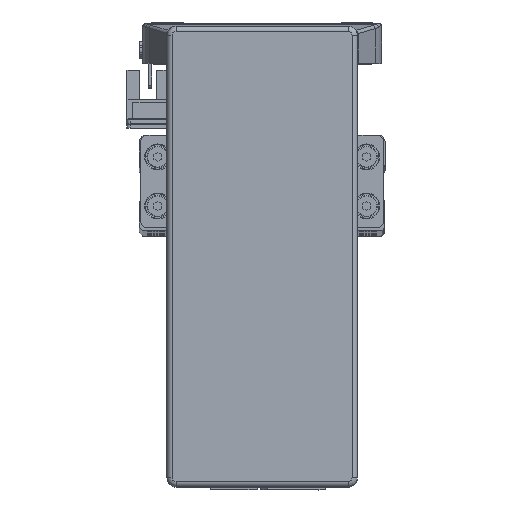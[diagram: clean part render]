
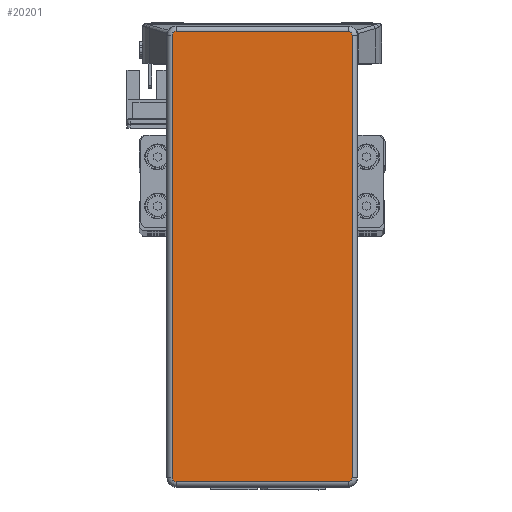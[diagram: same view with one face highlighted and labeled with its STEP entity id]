
A CAD part, top view. The second image highlights one B-rep face of the part: STEP entity #20201.
In plain terms, the highlighted planar face has unit normal (0, 0, 1) as drawn and (0, 0, -1) by its records, which use the part's own axes.
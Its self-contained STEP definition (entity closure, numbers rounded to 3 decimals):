
#2538 = AXIS2_PLACEMENT_3D ( 'NONE', #10122, #10105, #10145 ) ;
#2546 = AXIS2_PLACEMENT_3D ( 'NONE', #10215, #10211, #10216 ) ;
#2555 = AXIS2_PLACEMENT_3D ( 'NONE', #10296, #10320, #10326 ) ;
#2556 = AXIS2_PLACEMENT_3D ( 'NONE', #10344, #10372, #10377 ) ;
#7325 = EDGE_LOOP ( 'NONE', ( #41705, #41638, #41641, #41681, #41672, #41648, #41749, #41722 ) ) ;
#10105 = DIRECTION ( 'NONE',  ( 0., 0., -1. ) ) ;
#10122 = CARTESIAN_POINT ( 'NONE',  ( -71.995, 27.995, -32.2 ) ) ;
#10128 = DIRECTION ( 'NONE',  ( -1., 0., 0. ) ) ;
#10132 = CARTESIAN_POINT ( 'NONE',  ( 71.995, -29.295, -32.2 ) ) ;
#10145 = DIRECTION ( 'NONE',  ( 1., 0., 0. ) ) ;
#10211 = DIRECTION ( 'NONE',  ( 0., 0., -1. ) ) ;
#10215 = CARTESIAN_POINT ( 'NONE',  ( -71.995, -27.995, -32.2 ) ) ;
#10216 = DIRECTION ( 'NONE',  ( 1., 0., 0. ) ) ;
#10264 = DIRECTION ( 'NONE',  ( 0., -1., 0. ) ) ;
#10284 = CARTESIAN_POINT ( 'NONE',  ( 73.295, -27.995, -32.2 ) ) ;
#10296 = CARTESIAN_POINT ( 'NONE',  ( 71.995, 27.995, -32.2 ) ) ;
#10304 = CARTESIAN_POINT ( 'NONE',  ( -73.295, -27.995, -32.2 ) ) ;
#10314 = DIRECTION ( 'NONE',  ( 0., 1., 0. ) ) ;
#10320 = DIRECTION ( 'NONE',  ( 0., 0., -1. ) ) ;
#10326 = DIRECTION ( 'NONE',  ( 1., 0., 0. ) ) ;
#10344 = CARTESIAN_POINT ( 'NONE',  ( 71.995, -27.995, -32.2 ) ) ;
#10372 = DIRECTION ( 'NONE',  ( 0., 0., -1. ) ) ;
#10377 = DIRECTION ( 'NONE',  ( 1., 0., 0. ) ) ;
#10430 = CARTESIAN_POINT ( 'NONE',  ( 73.295, 27.995, -32.2 ) ) ;
#10502 = CARTESIAN_POINT ( 'NONE',  ( 71.995, 29.295, -32.2 ) ) ;
#10507 = DIRECTION ( 'NONE',  ( 1., 0., 0. ) ) ;
#10574 = CARTESIAN_POINT ( 'NONE',  ( -73.295, -27.995, -32.2 ) ) ;
#10587 = CARTESIAN_POINT ( 'NONE',  ( 73.295, -27.995, -32.2 ) ) ;
#10651 = CARTESIAN_POINT ( 'NONE',  ( -71.995, -29.295, -32.2 ) ) ;
#10659 = CARTESIAN_POINT ( 'NONE',  ( 71.995, -29.295, -32.2 ) ) ;
#10710 = CARTESIAN_POINT ( 'NONE',  ( 71.995, 29.295, -32.2 ) ) ;
#10848 = CARTESIAN_POINT ( 'NONE',  ( -73.295, 27.995, -32.2 ) ) ;
#10958 = CARTESIAN_POINT ( 'NONE',  ( -71.995, 29.295, -32.2 ) ) ;
#11018 = VECTOR ( 'NONE', #10128, 1000. ) ;
#11032 = LINE ( 'NONE', #10284, #11062 ) ;
#11051 = LINE ( 'NONE', #10132, #11018 ) ;
#11062 = VECTOR ( 'NONE', #10264, 1000. ) ;
#11068 = CIRCLE ( 'NONE', #2538, 1.3 ) ;
#11071 = CIRCLE ( 'NONE', #2555, 1.3 ) ;
#11076 = CIRCLE ( 'NONE', #2546, 1.3 ) ;
#11084 = LINE ( 'NONE', #10304, #11085 ) ;
#11085 = VECTOR ( 'NONE', #10314, 1000. ) ;
#11092 = CIRCLE ( 'NONE', #2556, 1.3 ) ;
#11150 = VECTOR ( 'NONE', #10507, 1000. ) ;
#11155 = LINE ( 'NONE', #10502, #11150 ) ;
#18595 = PLANE ( 'NONE',  #27791 ) ;
#18602 = DIRECTION ( 'NONE',  ( 1., 0., 0. ) ) ;
#18619 = CARTESIAN_POINT ( 'NONE',  ( 71.995, -27.995, -32.2 ) ) ;
#18629 = DIRECTION ( 'NONE',  ( 0., 0., 1. ) ) ;
#20201 = ADVANCED_FACE ( 'NONE', ( #40081 ), #18595, .F. ) ;
#27791 = AXIS2_PLACEMENT_3D ( 'NONE', #18619, #18629, #18602 ) ;
#38788 = EDGE_CURVE ( 'NONE', #39217, #39273, #11068, .T. ) ;
#38790 = EDGE_CURVE ( 'NONE', #39106, #39117, #11051, .T. ) ;
#38845 = EDGE_CURVE ( 'NONE', #39117, #39057, #11076, .T. ) ;
#38865 = EDGE_CURVE ( 'NONE', #38962, #39061, #11032, .T. ) ;
#38880 = EDGE_CURVE ( 'NONE', #39146, #38962, #11071, .T. ) ;
#38895 = EDGE_CURVE ( 'NONE', #39057, #39217, #11084, .T. ) ;
#38916 = EDGE_CURVE ( 'NONE', #39061, #39106, #11092, .T. ) ;
#38962 = VERTEX_POINT ( 'NONE', #10430 ) ;
#38991 = EDGE_CURVE ( 'NONE', #39273, #39146, #11155, .T. ) ;
#39057 = VERTEX_POINT ( 'NONE', #10574 ) ;
#39061 = VERTEX_POINT ( 'NONE', #10587 ) ;
#39106 = VERTEX_POINT ( 'NONE', #10659 ) ;
#39117 = VERTEX_POINT ( 'NONE', #10651 ) ;
#39146 = VERTEX_POINT ( 'NONE', #10710 ) ;
#39217 = VERTEX_POINT ( 'NONE', #10848 ) ;
#39273 = VERTEX_POINT ( 'NONE', #10958 ) ;
#40081 = FACE_OUTER_BOUND ( 'NONE', #7325, .T. ) ;
#41638 = ORIENTED_EDGE ( 'NONE', *, *, #38916, .T. ) ;
#41641 = ORIENTED_EDGE ( 'NONE', *, *, #38790, .T. ) ;
#41648 = ORIENTED_EDGE ( 'NONE', *, *, #38788, .T. ) ;
#41672 = ORIENTED_EDGE ( 'NONE', *, *, #38895, .T. ) ;
#41681 = ORIENTED_EDGE ( 'NONE', *, *, #38845, .T. ) ;
#41705 = ORIENTED_EDGE ( 'NONE', *, *, #38865, .T. ) ;
#41722 = ORIENTED_EDGE ( 'NONE', *, *, #38880, .T. ) ;
#41749 = ORIENTED_EDGE ( 'NONE', *, *, #38991, .T. ) ;
